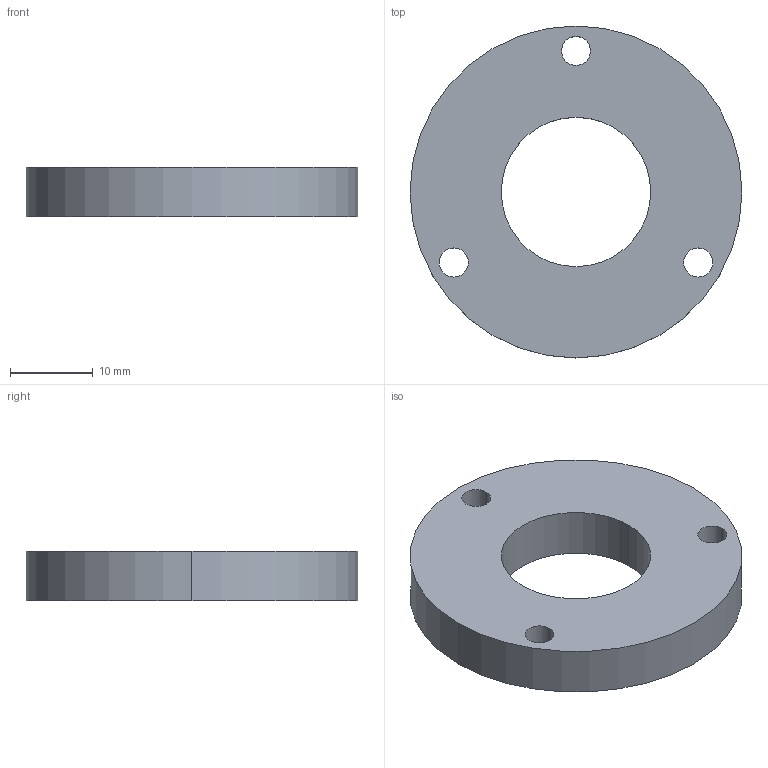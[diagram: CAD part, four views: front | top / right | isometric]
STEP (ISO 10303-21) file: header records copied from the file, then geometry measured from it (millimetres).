
FILE_DESCRIPTION (( 'STEP AP214' ), '1' );
FILE_NAME ('Flansch 0008.STEP', '2025-03-25T12:27:51', ( '' ), ( '' ), 'SwSTEP 2.0', 'SolidWorks 2022', '' );
FILE_SCHEMA (( 'AUTOMOTIVE_DESIGN' ));
Length unit declared in the file: millimetre
Products named in the file (1): Flansch 0008
Bounding box: 40 x 40 x 6 mm (x, y, z)
Volume: 5839.8 mm3; surface area: 3237.8 mm2
Topology: 1 solids, 1 shells, 12 faces, 30 edges, 20 vertices
Faces by surface type: cylinder 10, plane 2
Entity records: 424 total; most frequent: DIRECTION 76, CARTESIAN_POINT 63, ORIENTED_EDGE 60, AXIS2_PLACEMENT_3D 33, EDGE_CURVE 30, VERTEX_POINT 20, CIRCLE 20, EDGE_LOOP 20
